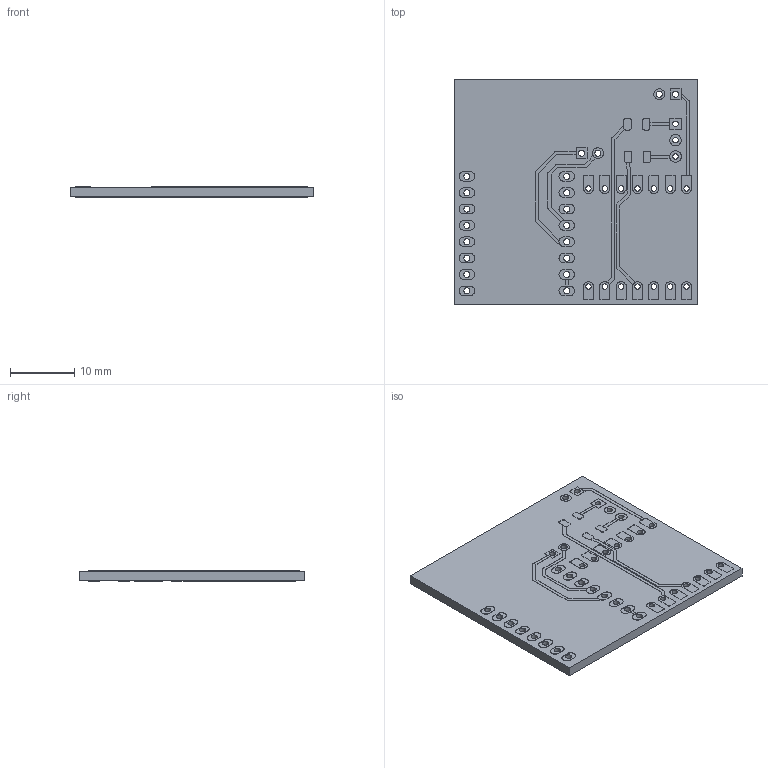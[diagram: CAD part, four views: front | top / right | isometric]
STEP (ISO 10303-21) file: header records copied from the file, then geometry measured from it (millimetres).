
FILE_DESCRIPTION(/* description */ ('STEP AP242 Edition 2','CAx-IF Rec.Pracs.---Representation and Presentation of Product Manufacturing Information (PMI)---4.0---2014-10-13','CAx-IF Rec.Pracs.---3D Tessellated Geometry---0.4---2014-09-14','2;1','CAx-IF Rec.Pracs.---User Defined Attributes---1.5---2016-08-15'),/* implementation_level */ '2;1');
FILE_NAME(/* name */ 'bb_v3 - pcb-mockup',/* time_stamp */ '2026-05-01T07:59:50Z',/* author */ (''),/* organization */ (''),/* preprocessor_version */ 'ST-DEVELOPER v20',/* originating_system */ 'ONSHAPE BY PTC INC, 1.214',/* authorisation */ ' ');
FILE_SCHEMA (('AP242_MANAGED_MODEL_BASED_3D_ENGINEERING_MIM_LF { 1 0 10303 442 3 1 4 }'));
Length unit declared in the file: metre
Products named in the file (1): pcb-mockup
Bounding box: 37.89 x 35.05 x 1.59 mm (x, y, z)
Volume: 1980.9 mm3; surface area: 3030.8 mm2
Topology: 1 solids, 1 shells, 597 faces, 1590 edges, 1060 vertices
Faces by surface type: plane 355, cylinder 242
Full cylindrical faces by diameter (mm): 0.839 x14, 0.85 x3, 0.95 x20, 1.524 x14, 1.7 x4, 1.8 x4
Entity records: 18482 total; most frequent: DIRECTION 3226, CARTESIAN_POINT 3175, ORIENTED_EDGE 3048, EDGE_CURVE 1524, AXIS2_PLACEMENT_3D 1104, VERTEX_POINT 1053, LINE 1018, VECTOR 1018
